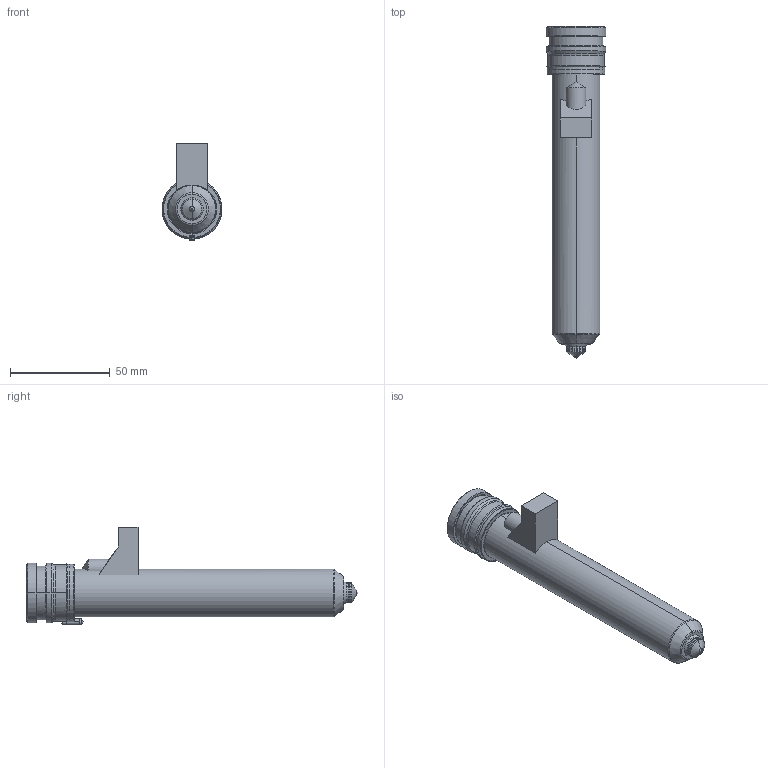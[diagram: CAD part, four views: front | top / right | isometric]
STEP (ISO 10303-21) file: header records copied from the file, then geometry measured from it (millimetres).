
FILE_DESCRIPTION((''),'2;1');
FILE_NAME('MPN-10-29-TS10-146-M','2026-02-05T12:49:47',('UPTIO'),('Thermoplay S.p.A.'),'CREO PARAMETRIC BY PTC INC, 2023494','CREO PARAMETRIC BY PTC INC, 2023494','');
FILE_SCHEMA(('CONFIG_CONTROL_DESIGN','SHAPE_APPEARANCE_LAYERS_GROUPS'));
Length unit declared in the file: millimetre
Products named in the file (1): MPN-10-29-TS10-146-M
Bounding box: 30 x 166 x 49 mm (x, y, z)
Volume: 52118.8 mm3; surface area: 53421.6 mm2
Topology: 3 solids, 5 shells, 542 faces, 1383 edges, 843 vertices
Faces by surface type: cylinder 177, plane 148, bspline 72, torus 67, cone 64, sphere 10, extrusion 4
Entity records: 29231 total; most frequent: CARTESIAN_POINT 13455, ORIENTED_EDGE 2748, DIRECTION 2578, EDGE_CURVE 1374, AXIS2_PLACEMENT_3D 1023, VERTEX_POINT 843, EDGE_LOOP 571, CIRCLE 556
